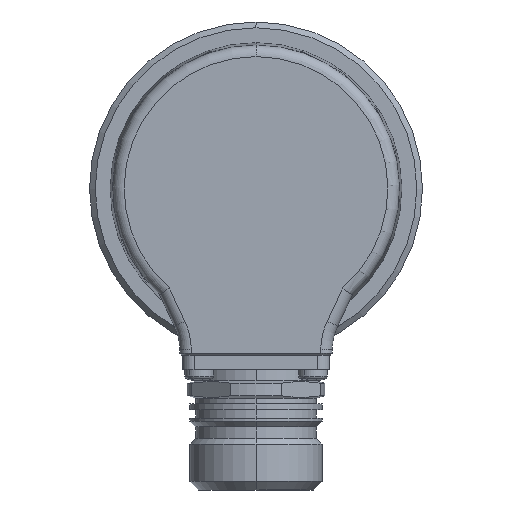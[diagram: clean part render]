
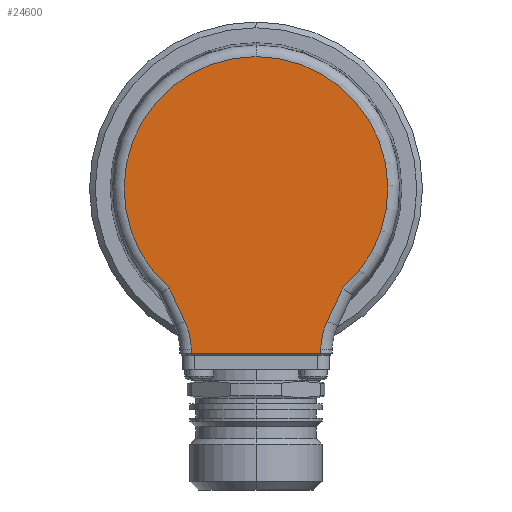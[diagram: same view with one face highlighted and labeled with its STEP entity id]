
A CAD part, left-side view. The second image highlights one B-rep face of the part: STEP entity #24600.
In plain terms, the highlighted planar face has unit normal (-1, 0, 0).
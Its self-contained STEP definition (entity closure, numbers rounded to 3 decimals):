
#407 = DIRECTION ( 'NONE',  ( 0., 0., 1. ) ) ;
#408 = DIRECTION ( 'NONE',  ( 1., 0., 0. ) ) ;
#409 = CARTESIAN_POINT ( 'NONE',  ( -21., 23.266, -28.183 ) ) ;
#410 = AXIS2_PLACEMENT_3D ( 'NONE', #409, #408, #407 ) ;
#411 = CIRCLE ( 'NONE', #410, 12. ) ;
#666 = CARTESIAN_POINT ( 'NONE',  ( -21., 15.091, -17.32 ) ) ;
#709 = CARTESIAN_POINT ( 'NONE',  ( -21., 0., 22.972 ) ) ;
#710 = DIRECTION ( 'NONE',  ( 0., 0., 1. ) ) ;
#711 = DIRECTION ( 'NONE',  ( -1., 0., 0. ) ) ;
#712 = CARTESIAN_POINT ( 'NONE',  ( -21., 0., 0. ) ) ;
#713 = AXIS2_PLACEMENT_3D ( 'NONE', #712, #711, #710 ) ;
#714 = CIRCLE ( 'NONE', #713, 22.972 ) ;
#1247 = FACE_OUTER_BOUND ( 'NONE', #24605, .T. ) ;
#1248 = CARTESIAN_POINT ( 'NONE',  ( -21., 11.255, -28.695 ) ) ;
#1249 = CARTESIAN_POINT ( 'NONE',  ( -21., -11.255, -28.695 ) ) ;
#1250 = CARTESIAN_POINT ( 'NONE',  ( -21., -12.39, -23.112 ) ) ;
#1251 = DIRECTION ( 'NONE',  ( 0., 0., 1. ) ) ;
#1252 = DIRECTION ( 'NONE',  ( 1., 0., 0. ) ) ;
#1253 = CARTESIAN_POINT ( 'NONE',  ( -21., -23.266, -28.183 ) ) ;
#1254 = AXIS2_PLACEMENT_3D ( 'NONE', #1253, #1252, #1251 ) ;
#1255 = CIRCLE ( 'NONE', #1254, 12. ) ;
#1256 = DIRECTION ( 'NONE',  ( 0., -0.423, 0.906 ) ) ;
#1257 = VECTOR ( 'NONE', #1256, 1000. ) ;
#1258 = CARTESIAN_POINT ( 'NONE',  ( -21., -14.953, -17.615 ) ) ;
#1259 = LINE ( 'NONE', #1258, #1257 ) ;
#1260 = CARTESIAN_POINT ( 'NONE',  ( -21., -15.091, -17.32 ) ) ;
#1261 = DIRECTION ( 'NONE',  ( 0., 0., 1. ) ) ;
#1262 = DIRECTION ( 'NONE',  ( -1., 0., 0. ) ) ;
#1263 = CARTESIAN_POINT ( 'NONE',  ( -21., 0., 0. ) ) ;
#1264 = AXIS2_PLACEMENT_3D ( 'NONE', #1263, #1262, #1261 ) ;
#1265 = CIRCLE ( 'NONE', #1264, 22.972 ) ;
#1271 = CARTESIAN_POINT ( 'NONE',  ( -21., 11.752, -0.205 ) ) ;
#1272 = LINE ( 'NONE', #1271, #1328 ) ;
#1273 = DIRECTION ( 'NONE',  ( 0., -0.017, 1. ) ) ;
#1274 = VECTOR ( 'NONE', #1273, 1000. ) ;
#1276 = CARTESIAN_POINT ( 'NONE',  ( -21., -11.752, -0.205 ) ) ;
#1277 = LINE ( 'NONE', #1276, #1274 ) ;
#1281 = DIRECTION ( 'NONE',  ( 0., 0., 1. ) ) ;
#1282 = DIRECTION ( 'NONE',  ( 1., 0., 0. ) ) ;
#1283 = CARTESIAN_POINT ( 'NONE',  ( -21., 0., 0. ) ) ;
#1284 = AXIS2_PLACEMENT_3D ( 'NONE', #1283, #1282, #1281 ) ;
#1286 = PLANE ( 'NONE',  #1284 ) ;
#1321 = DIRECTION ( 'NONE',  ( 0., -1., 0. ) ) ;
#1322 = VECTOR ( 'NONE', #1321, 1000. ) ;
#1323 = CARTESIAN_POINT ( 'NONE',  ( -21., -11.25, -28.695 ) ) ;
#1324 = LINE ( 'NONE', #1323, #1322 ) ;
#1325 = CARTESIAN_POINT ( 'NONE',  ( -21., -11.268, -27.974 ) ) ;
#1326 = CARTESIAN_POINT ( 'NONE',  ( -21., 11.268, -27.974 ) ) ;
#1327 = DIRECTION ( 'NONE',  ( 0., -0.017, -1. ) ) ;
#1328 = VECTOR ( 'NONE', #1327, 1000. ) ;
#22219 = EDGE_CURVE ( 'NONE', #24327, #37933, #37500, .T. ) ;
#22290 = ORIENTED_EDGE ( 'NONE', *, *, #23460, .T. ) ;
#23459 = ORIENTED_EDGE ( 'NONE', *, *, #22219, .T. ) ;
#23460 = EDGE_CURVE ( 'NONE', #37933, #24612, #411, .T. ) ;
#24327 = VERTEX_POINT ( 'NONE', #666 ) ;
#24334 = EDGE_CURVE ( 'NONE', #24335, #24327, #714, .T. ) ;
#24335 = VERTEX_POINT ( 'NONE', #709 ) ;
#24590 = EDGE_CURVE ( 'NONE', #24591, #24335, #1265, .T. ) ;
#24591 = VERTEX_POINT ( 'NONE', #1260 ) ;
#24592 = ORIENTED_EDGE ( 'NONE', *, *, #24593, .T. ) ;
#24593 = EDGE_CURVE ( 'NONE', #24595, #24591, #1259, .T. ) ;
#24594 = EDGE_CURVE ( 'NONE', #24613, #24595, #1255, .T. ) ;
#24595 = VERTEX_POINT ( 'NONE', #1250 ) ;
#24596 = VERTEX_POINT ( 'NONE', #1249 ) ;
#24598 = VERTEX_POINT ( 'NONE', #1248 ) ;
#24600 = ADVANCED_FACE ( 'NONE', ( #1247 ), #1286, .F. ) ;
#24601 = ORIENTED_EDGE ( 'NONE', *, *, #24616, .T. ) ;
#24602 = ORIENTED_EDGE ( 'NONE', *, *, #24607, .T. ) ;
#24603 = ORIENTED_EDGE ( 'NONE', *, *, #24594, .T. ) ;
#24605 = EDGE_LOOP ( 'NONE', ( #24610, #24601, #24602, #24603, #24592, #24626, #37849, #23459, #22290 ) ) ;
#24607 = EDGE_CURVE ( 'NONE', #24596, #24613, #1277, .T. ) ;
#24609 = EDGE_CURVE ( 'NONE', #24612, #24598, #1272, .T. ) ;
#24610 = ORIENTED_EDGE ( 'NONE', *, *, #24609, .T. ) ;
#24612 = VERTEX_POINT ( 'NONE', #1326 ) ;
#24613 = VERTEX_POINT ( 'NONE', #1325 ) ;
#24616 = EDGE_CURVE ( 'NONE', #24598, #24596, #1324, .T. ) ;
#24626 = ORIENTED_EDGE ( 'NONE', *, *, #24590, .T. ) ;
#31622 = CARTESIAN_POINT ( 'NONE',  ( -21., 12.39, -23.112 ) ) ;
#37497 = DIRECTION ( 'NONE',  ( 0., -0.423, -0.906 ) ) ;
#37498 = VECTOR ( 'NONE', #37497, 1000. ) ;
#37499 = CARTESIAN_POINT ( 'NONE',  ( -21., 12.39, -23.112 ) ) ;
#37500 = LINE ( 'NONE', #37499, #37498 ) ;
#37849 = ORIENTED_EDGE ( 'NONE', *, *, #24334, .T. ) ;
#37933 = VERTEX_POINT ( 'NONE', #31622 ) ;
